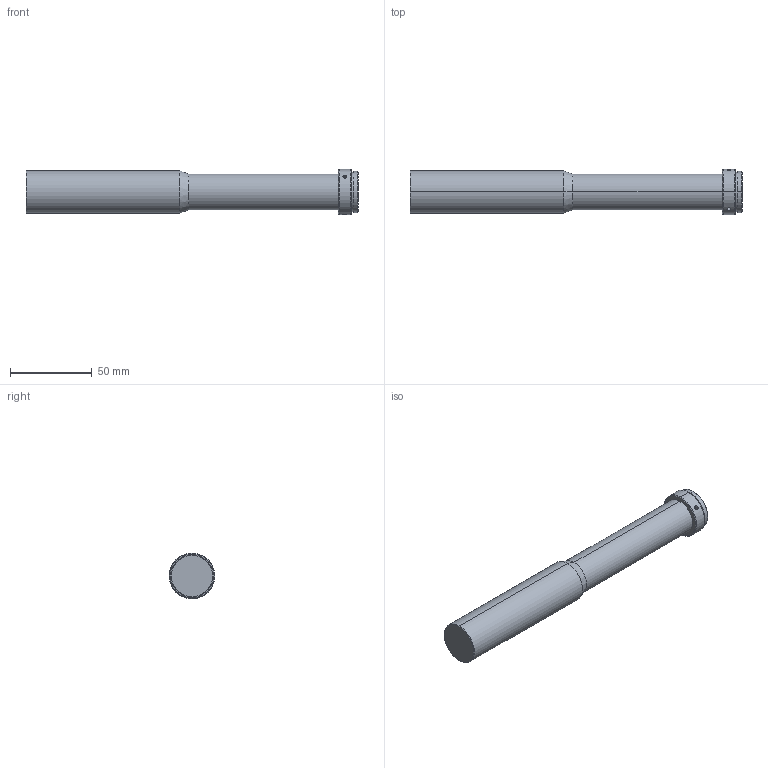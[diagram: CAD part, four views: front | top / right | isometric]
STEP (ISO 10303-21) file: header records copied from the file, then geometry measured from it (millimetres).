
FILE_DESCRIPTION (( 'STEP AP203' ), '1' );
FILE_NAME ('WWH10-330AT.STEP', '2019-12-03T03:28:06', ( 'Windows 蚚誧' ), ( '' ), 'SwSTEP 2.0', 'SolidWorks 2017', '' );
FILE_SCHEMA (( 'CONFIG_CONTROL_DESIGN' ));
Length unit declared in the file: millimetre
Products named in the file (1): WWH10-330AT
Bounding box: 203.7 x 28 x 28 mm (x, y, z)
Volume: 94310.8 mm3; surface area: 16987.1 mm2
Topology: 1 solids, 1 shells, 37 faces, 80 edges, 45 vertices
Faces by surface type: cone 16, cylinder 16, plane 5
Entity records: 1127 total; most frequent: CARTESIAN_POINT 259, DIRECTION 180, ORIENTED_EDGE 148, EDGE_CURVE 74, AXIS2_PLACEMENT_3D 74, VERTEX_POINT 45, EDGE_LOOP 43, FACE_OUTER_BOUND 37
